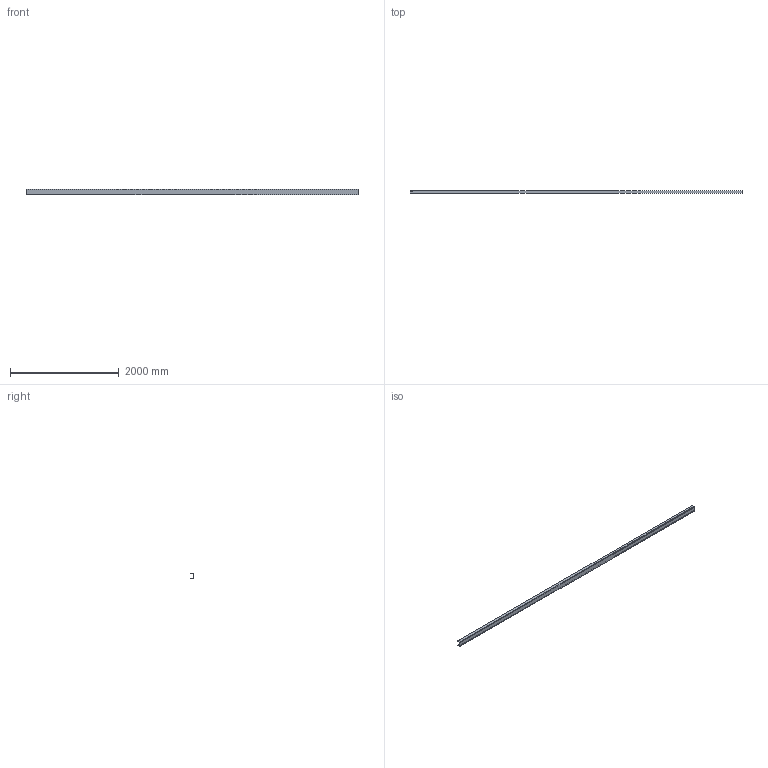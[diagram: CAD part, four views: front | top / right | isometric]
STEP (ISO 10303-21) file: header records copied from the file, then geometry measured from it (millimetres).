
FILE_DESCRIPTION (( 'STEP AP214' ), '1' );
FILE_NAME ('CCJ029-REP.059 - POUTRE SUPERIEURE B1-B4 TYPE 2.STEP', '2024-01-31T09:34:39', ( '' ), ( '' ), 'SwSTEP 2.0', 'SolidWorks 2021', '' );
FILE_SCHEMA (( 'AUTOMOTIVE_DESIGN' ));
Length unit declared in the file: millimetre
Products named in the file (1): CCJ029-REP.059 - POUTRE SUPERIEURE B1-B4 TYPE 2
Bounding box: 6110 x 55 x 100 mm (x, y, z)
Volume: 7633086.6 mm3; surface area: 2461501.1 mm2
Topology: 1 solids, 1 shells, 64 faces, 171 edges, 114 vertices
Faces by surface type: bspline 26, plane 24, cylinder 14
Entity records: 3717 total; most frequent: CARTESIAN_POINT 2208, ORIENTED_EDGE 342, DIRECTION 225, EDGE_CURVE 171, VERTEX_POINT 114, LINE 91, VECTOR 91, EDGE_LOOP 81
